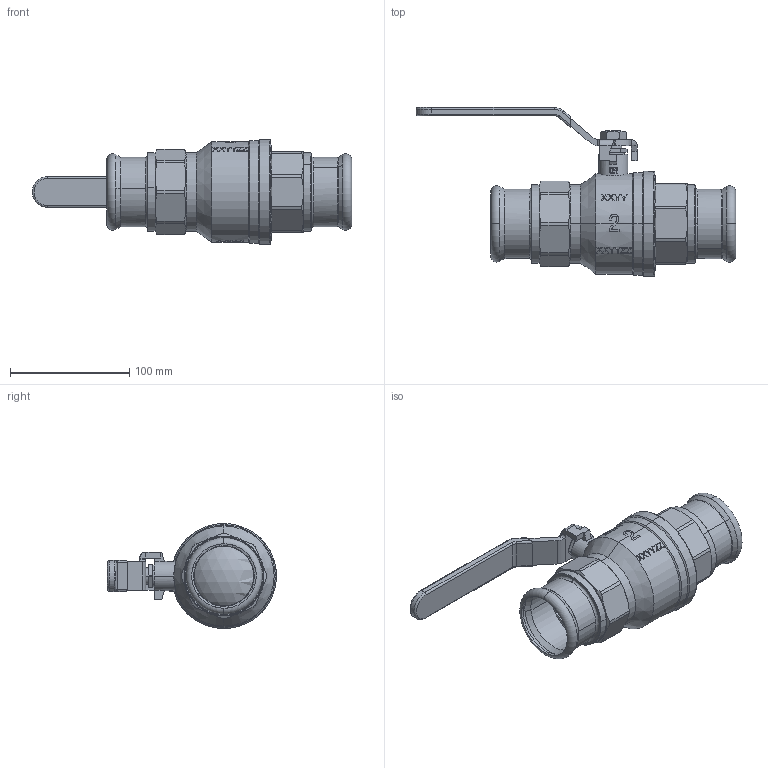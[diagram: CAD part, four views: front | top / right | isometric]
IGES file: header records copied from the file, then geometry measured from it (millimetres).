
Global section: file name: No Iges File Name specified; native system: AutoDesk Inventor R12.0; preprocessor: AutoDesk Inventor Iges Exporter R12.0; date: 20120117.141533; units: millimetre
Bounding box: 267.5 x 141.5 x 88 mm (x, y, z)
Volume: 103975.8 mm3; surface area: 156465.4 mm2
Topology: 1 solids, 9 shells, 972 faces, 2982 edges, 2142 vertices
Faces by surface type: plane 423, bspline 211, revolution 116, cylinder 105, cone 80, torus 32, sphere 5
